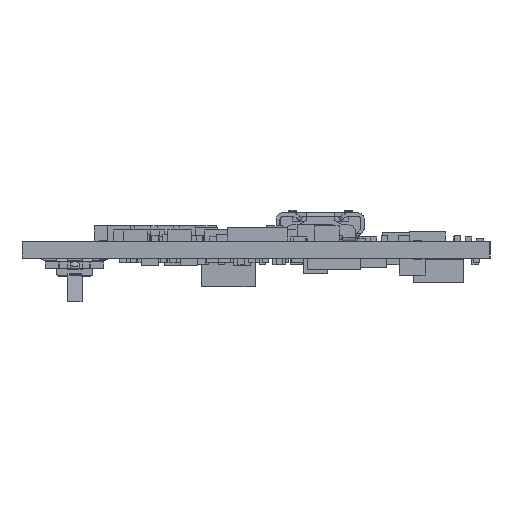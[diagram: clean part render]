
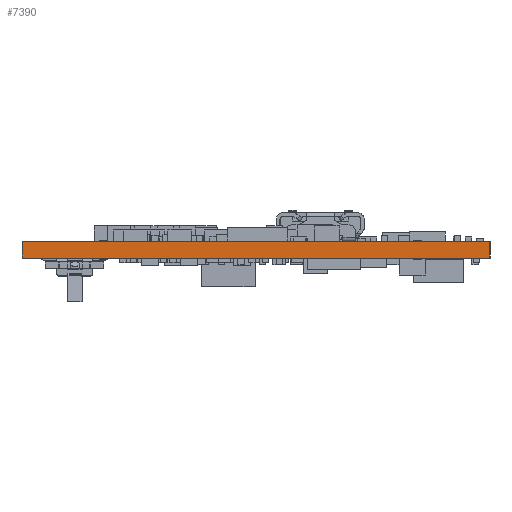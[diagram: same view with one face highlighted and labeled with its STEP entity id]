
A CAD part, left-side view. The second image highlights one B-rep face of the part: STEP entity #7390.
In plain terms, the highlighted planar face has unit normal (-1, 0, 0).
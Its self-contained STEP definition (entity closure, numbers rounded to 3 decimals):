
#1535=FACE_OUTER_BOUND('',#50337,.T.);
#7390=ADVANCED_FACE('',(#1535),#13372,.F.);
#13372=PLANE('',#118673);
#20660=LINE('',#157991,#35143);
#21324=LINE('',#159511,#35807);
#21800=LINE('',#161233,#36283);
#21803=LINE('',#161238,#36286);
#35143=VECTOR('',#126836,1.);
#35807=VECTOR('',#127538,1.);
#36283=VECTOR('',#128492,1.);
#36286=VECTOR('',#128499,1.);
#50337=EDGE_LOOP('',(#58223,#58224,#58225,#58226));
#58223=ORIENTED_EDGE('',*,*,#101515,.T.);
#58224=ORIENTED_EDGE('',*,*,#102946,.T.);
#58225=ORIENTED_EDGE('',*,*,#102225,.F.);
#58226=ORIENTED_EDGE('',*,*,#102943,.F.);
#90490=VERTEX_POINT('',#157986);
#90492=VERTEX_POINT('',#157990);
#91202=VERTEX_POINT('',#159512);
#91203=VERTEX_POINT('',#159513);
#101515=EDGE_CURVE('',#90490,#90492,#20660,.T.);
#102225=EDGE_CURVE('',#91202,#91203,#21324,.T.);
#102943=EDGE_CURVE('',#90490,#91202,#21800,.T.);
#102946=EDGE_CURVE('',#90492,#91203,#21803,.T.);
#118673=AXIS2_PLACEMENT_3D('',#161240,#128502,#128503);
#126836=DIRECTION('',(0.,-1.,0.));
#127538=DIRECTION('',(0.,-1.,0.));
#128492=DIRECTION('',(0.,0.,1.));
#128499=DIRECTION('',(0.,0.,1.));
#128502=DIRECTION('',(1.,0.,0.));
#128503=DIRECTION('',(0.,-1.,0.));
#157986=CARTESIAN_POINT('',(0.,40.,0.));
#157990=CARTESIAN_POINT('',(0.,0.,0.));
#157991=CARTESIAN_POINT('',(0.,40.,0.));
#159511=CARTESIAN_POINT('',(0.,40.,1.402));
#159512=CARTESIAN_POINT('',(0.,40.,1.402));
#159513=CARTESIAN_POINT('',(0.,0.,1.402));
#161233=CARTESIAN_POINT('',(0.,40.,0.));
#161238=CARTESIAN_POINT('',(0.,0.,0.));
#161240=CARTESIAN_POINT('',(0.,40.,0.));
